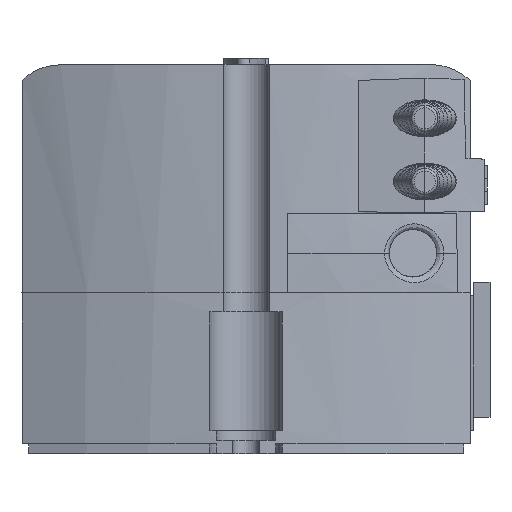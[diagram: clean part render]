
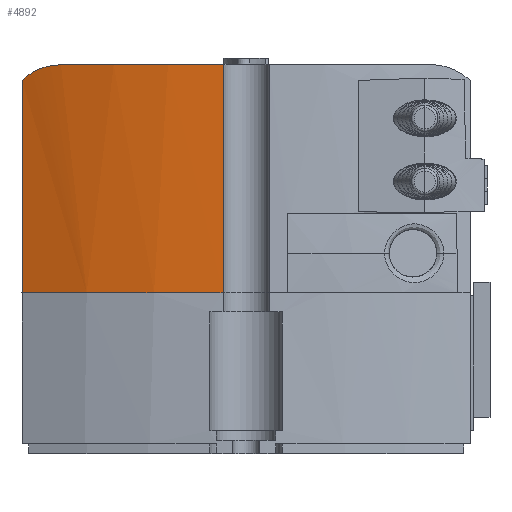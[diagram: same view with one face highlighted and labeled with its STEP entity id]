
A CAD part, left-side view. The second image highlights one B-rep face of the part: STEP entity #4892.
In plain terms, the highlighted cylindrical face has radius 80 mm (diameter 160 mm), a partial arc.
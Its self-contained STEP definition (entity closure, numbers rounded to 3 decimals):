
#3704=CYLINDRICAL_SURFACE('',#12252,80.);
#4149=B_SPLINE_CURVE_WITH_KNOTS('',3,(#23078,#23079,#23080,#23081,#23082,
#23083,#23084),.UNSPECIFIED.,.F.,.F.,(4,3,4),(0.,0.472,1.),
 .UNSPECIFIED.);
#4209=CIRCLE('',#11677,80.);
#4446=CIRCLE('',#12223,80.);
#4892=ADVANCED_FACE('',(#5544),#3704,.T.);
#5544=FACE_OUTER_BOUND('',#6032,.T.);
#6032=EDGE_LOOP('',(#7939,#7940,#7941,#7942,#7943));
#7939=ORIENTED_EDGE('',*,*,#10403,.F.);
#7940=ORIENTED_EDGE('',*,*,#10433,.T.);
#7941=ORIENTED_EDGE('',*,*,#9495,.T.);
#7942=ORIENTED_EDGE('',*,*,#10434,.T.);
#7943=ORIENTED_EDGE('',*,*,#10278,.T.);
#8695=VERTEX_POINT('',#14641);
#8696=VERTEX_POINT('',#14643);
#9229=VERTEX_POINT('',#22646);
#9230=VERTEX_POINT('',#22648);
#9294=VERTEX_POINT('',#22994);
#9495=EDGE_CURVE('',#8696,#8695,#4209,.T.);
#10278=EDGE_CURVE('',#9230,#9229,#10956,.T.);
#10403=EDGE_CURVE('',#9294,#9229,#4446,.T.);
#10433=EDGE_CURVE('',#9294,#8696,#11038,.T.);
#10434=EDGE_CURVE('',#8695,#9230,#4149,.T.);
#10956=LINE('',#22647,#11435);
#11038=LINE('',#23076,#11517);
#11435=VECTOR('',#13645,1.);
#11517=VECTOR('',#13981,1.);
#11677=AXIS2_PLACEMENT_3D('',#14642,#12518,#12519);
#12223=AXIS2_PLACEMENT_3D('',#23026,#13913,#13914);
#12252=AXIS2_PLACEMENT_3D('',#23085,#13984,#13985);
#12518=DIRECTION('',(0.,0.,-1.));
#12519=DIRECTION('',(0.,-1.,0.));
#13645=DIRECTION('',(0.,0.,-1.));
#13913=DIRECTION('',(0.,0.,-1.));
#13914=DIRECTION('',(1.,0.,0.));
#13981=DIRECTION('',(0.,0.,1.));
#13984=DIRECTION('',(0.,0.,-1.));
#13985=DIRECTION('',(0.,1.,0.));
#14641=CARTESIAN_POINT('',(-89.163,28.1,28.35));
#14642=CARTESIAN_POINT('',(-14.26,0.,28.35));
#14643=CARTESIAN_POINT('',(-94.183,3.5,28.35));
#22646=CARTESIAN_POINT('',(-86.675,34.,-6.25));
#22647=CARTESIAN_POINT('',(-86.675,34.,-27.15));
#22648=CARTESIAN_POINT('',(-86.675,34.,25.969));
#22994=CARTESIAN_POINT('',(-94.183,3.5,-6.25));
#23026=CARTESIAN_POINT('',(-14.26,0.,-6.25));
#23076=CARTESIAN_POINT('',(-94.183,3.5,-27.15));
#23078=CARTESIAN_POINT('',(-89.163,28.1,28.35));
#23079=CARTESIAN_POINT('',(-88.778,29.124,28.35));
#23080=CARTESIAN_POINT('',(-88.367,30.154,28.161));
#23081=CARTESIAN_POINT('',(-87.965,31.106,27.801));
#23082=CARTESIAN_POINT('',(-87.517,32.167,27.399));
#23083=CARTESIAN_POINT('',(-87.066,33.168,26.771));
#23084=CARTESIAN_POINT('',(-86.675,34.,25.969));
#23085=CARTESIAN_POINT('',(-14.26,0.,-27.15));
